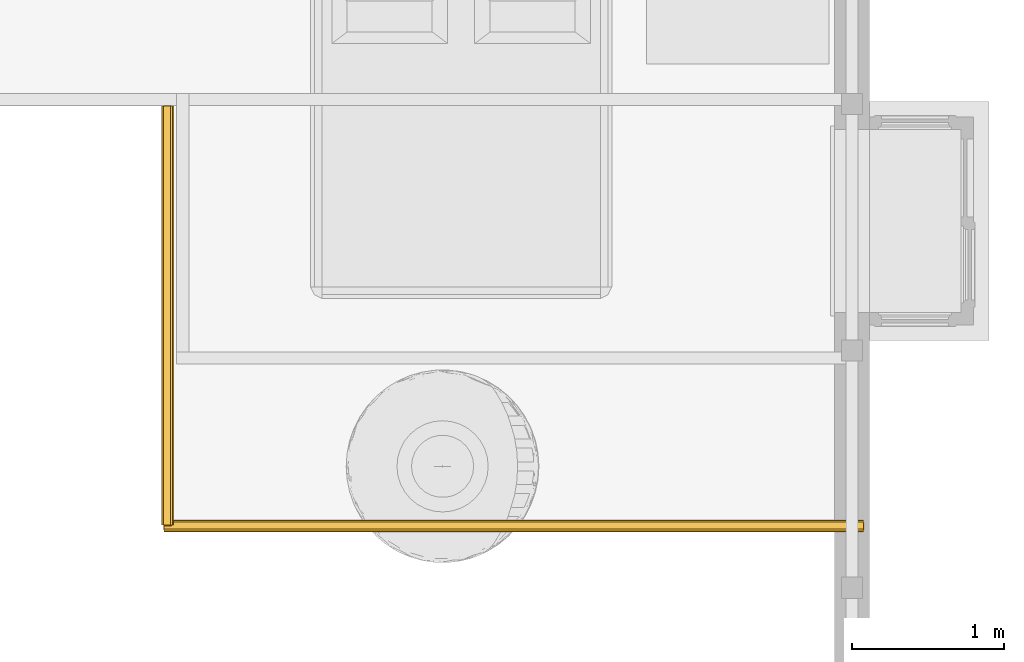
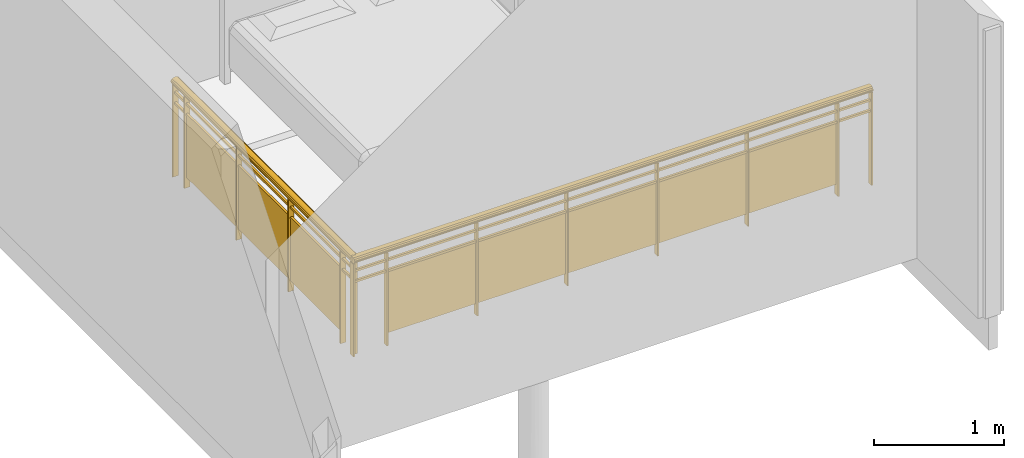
# One storey, part 4 of 5: 2 railings.
"""IFC2X3 building model written with IfcOpenShell, lengths in metres."""

from ifc_helpers import new_model, entity, si_unit, converted_unit, derived_unit, direction, frame, frame_2d, origin, origin_2d_with_axis, place, context, subcontext, project, spatial, polyline, rectangle, outline, extrude, material, material_list, type_object, element, save


model = new_model("IFC2X3")

# Units and contexts
model_context = context("Model", 3, precision=1e-05, world=origin(), true_north=direction((6.123233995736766e-17, 1.0)))
body_context = subcontext(model_context, "Body", "Model", "MODEL_VIEW")
ifc_project = project(units=[si_unit("LENGTHUNIT", "METRE"), si_unit("AREAUNIT", "SQUARE_METRE"), converted_unit("PLANEANGLEUNIT", "DEGREE", entity("IfcPlaneAngleMeasure", 0.017453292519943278), si_unit("PLANEANGLEUNIT", "RADIAN"), dimensions=[0, 0, 0, 0, 0, 0, 0]), derived_unit("THERMALTRANSMITTANCEUNIT", [(si_unit("MASSUNIT", "GRAM", prefix="KILO"), 1), (si_unit("THERMODYNAMICTEMPERATUREUNIT", "KELVIN"), -1), (si_unit("TIMEUNIT", "SECOND"), -3)])], contexts=[model_context])

# Site, building, storey
site_placement = place(None, origin())
site = spatial("IfcSite", under=ifc_project, at=site_placement, Name="Default", CompositionType="ELEMENT")
building_placement = place(site_placement, origin())
building = spatial("IfcBuilding", under=site, at=building_placement, CompositionType="ELEMENT")
storey_placement = place(building_placement, frame((0.0, 0.0, 3.0999999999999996)))
storey = spatial("IfcBuildingStorey", under=building, at=storey_placement, Name="1 - First Floor", CompositionType="ELEMENT", Elevation=3.0999999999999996)

# Railings
ifc_material_1 = material(Name="Metal - Stainless Steel,Polished")
ifc_material_2 = material(Name="Glass")
ifc_material_3 = material(Name="<Unnamed>")
ifc_material_list = material_list([ifc_material_1, ifc_material_2, ifc_material_3])
railing_type = type_object("IfcRailingType", Name="Railing:Glass Panel - Bottom Fill", PredefinedType="NOTDEFINED")
railing_1_placement = place(storey_placement, origin())
element("IfcRailing", 1, at=railing_1_placement, inside=storey, type_object=railing_type, material=ifc_material_list, Name="Railing:Glass Panel - Bottom Fill", ObjectType="Railing:Glass Panel - Bottom Fill", PredefinedType="NOTDEFINED", context=body_context, shape_type="SweptSolid", body=[
    extrude(rectangle(XDim=0.01199999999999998, YDim=0.05, at=frame_2d((-2.706168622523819e-16, -3.2959746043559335e-17), x_axis=(1.0, 0.0))), frame((3.244135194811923, -0.20443731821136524, 0.0)), (0.0, 0.0, 1.0), 0.8699999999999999),
    extrude(rectangle(XDim=0.7999999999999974, YDim=0.00499999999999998, at=frame_2d((2.7755575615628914e-16, 0.0), x_axis=(1.0, 0.0))), frame((2.8441351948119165, -0.20021250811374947, 0.1)), (0.0, 0.0, 1.0), 0.5799999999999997),
    extrude(rectangle(XDim=0.01199999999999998, YDim=0.05, at=frame_2d((2.706168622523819e-16, 0.0), x_axis=(1.0, 0.0))), frame((2.444135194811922, -0.20443731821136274, 0.0)), (0.0, 0.0, 1.0), 0.8699999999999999),
    extrude(rectangle(XDim=0.7999999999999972, YDim=0.00499999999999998, at=frame_2d((-1.3877787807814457e-16, 0.0), x_axis=(1.0, 0.0))), frame((2.0441351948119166, -0.20021250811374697, 0.1)), (0.0, 0.0, 1.0), 0.5799999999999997),
    extrude(rectangle(XDim=0.01199999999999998, YDim=0.05, at=frame_2d((1.3530843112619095e-16, 0.0), x_axis=(1.0, 0.0))), frame((1.644135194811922, -0.20443731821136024, 0.0)), (0.0, 0.0, 1.0), 0.8699999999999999),
    extrude(rectangle(XDim=0.7999999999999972, YDim=0.00499999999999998, at=frame_2d((-1.3877787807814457e-16, 0.0), x_axis=(1.0, 0.0))), frame((1.2441351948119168, -0.20021250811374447, 0.1)), (0.0, 0.0, 1.0), 0.5799999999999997),
    extrude(rectangle(XDim=0.01199999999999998, YDim=0.05, at=frame_2d((0.0, -3.2959746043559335e-17), x_axis=(1.0, 0.0))), frame((0.8441351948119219, -0.20443731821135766, 0.0)), (0.0, 0.0, 1.0), 0.8699999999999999),
    extrude(rectangle(XDim=0.7999999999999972, YDim=0.00499999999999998, at=frame_2d((-5.551115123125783e-17, 0.0), x_axis=(1.0, 0.0))), frame((0.4441351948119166, -0.20021250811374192, 0.1)), (0.0, 0.0, 1.0), 0.5799999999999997),
    extrude(rectangle(XDim=0.01200000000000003, YDim=0.05, at=origin_2d_with_axis()), frame((0.0441351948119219, -0.2044373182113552, 0.0)), (0.0, 0.0, 1.0), 0.8699999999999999),
    extrude(rectangle(XDim=0.799999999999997, YDim=0.00499999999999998, at=origin_2d_with_axis()), frame((-0.3558648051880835, -0.20021250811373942, 0.1)), (0.0, 0.0, 1.0), 0.5799999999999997),
    extrude(rectangle(XDim=0.01199999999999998, YDim=0.05, at=frame_2d((0.0, -3.2959746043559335e-17), x_axis=(1.0, 0.0))), frame((-0.7558648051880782, -0.20443731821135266, 0.0)), (0.0, 0.0, 1.0), 0.8699999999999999),
    extrude(rectangle(XDim=0.01199999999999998, YDim=0.05, at=frame_2d((-2.706168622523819e-16, 0.0), x_axis=(1.0, 0.0))), frame((3.542135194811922, -0.2044373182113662, 0.0)), (0.0, 0.0, 1.0), 0.8699999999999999),
    extrude(rectangle(XDim=0.01199999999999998, YDim=0.05, at=frame_2d((0.0, -3.2959746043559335e-17), x_axis=(1.0, 0.0))), frame((-1.0538648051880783, -0.20443731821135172, 0.0)), (0.0, 0.0, 1.0), 0.8699999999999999),
    extrude(rectangle(XDim=4.6000000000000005, YDim=0.019999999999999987, at=origin_2d_with_axis()), frame((1.2441351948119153, -0.20443731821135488, 0.7800000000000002)), (0.0, 0.0, 1.0), 0.019999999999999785),
    extrude(rectangle(XDim=4.6000000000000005, YDim=0.019999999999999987, at=origin_2d_with_axis()), frame((1.2441351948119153, -0.20443731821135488, 0.6800000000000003)), (0.0, 0.0, 1.0), 0.019999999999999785),
    extrude(outline(polyline([(-0.010906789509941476, -0.03848430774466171), (0.0017758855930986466, -0.0384843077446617), (0.01415149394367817, -0.03183002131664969), (0.024080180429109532, -0.019672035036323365), (0.029845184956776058, -0.004112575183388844), (0.03044968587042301, 0.012157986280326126), (0.02578915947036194, 0.026326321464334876), (0.016669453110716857, 0.035942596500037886), (0.010906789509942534, 0.03848430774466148), (-0.0017758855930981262, 0.03848430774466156), (-0.014151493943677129, 0.0318300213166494), (-0.024080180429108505, 0.019672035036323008), (-0.029845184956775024, 0.004112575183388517), (-0.030449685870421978, -0.012157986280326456), (-0.0257891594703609, -0.02632632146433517), (-0.01666945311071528, -0.035942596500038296), (-0.010906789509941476, -0.03848430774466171)])), frame((-1.055864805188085, -0.2038280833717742, 0.8999999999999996), z_axis=(1.0, 0.0, 0.0), x_axis=(0.0, -0.2726697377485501, 0.9621076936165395)), (0.0, 0.0, 1.0), 4.6000000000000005),
])
railing_2_placement = place(storey_placement, origin())
element("IfcRailing", 2, at=railing_2_placement, inside=storey, type_object=railing_type, material=ifc_material_list, Name="Railing:Glass Panel - Bottom Fill", ObjectType="Railing:Glass Panel - Bottom Fill", PredefinedType="NOTDEFINED", context=body_context, shape_type="SweptSolid", body=[
    extrude(rectangle(XDim=0.05, YDim=0.012000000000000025, at=frame_2d((0.0, -1.3010426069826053e-18), x_axis=(1.0, 0.0))), frame((-1.0319240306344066, -0.019849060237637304, 0.0), z_axis=(0.0, 0.0, 1.0), x_axis=(-1.0, 0.0, 0.0)), (0.0, 0.0, 1.0), 0.8699999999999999),
    extrude(rectangle(XDim=0.004999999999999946, YDim=0.7999999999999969, at=frame_2d((-6.765421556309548e-17, 0.0), x_axis=(1.0, 0.0))), frame((-1.0361488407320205, 0.3801509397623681, 0.1), z_axis=(0.0, 0.0, 1.0), x_axis=(-1.0, 0.0, 0.0)), (0.0, 0.0, 1.0), 0.5799999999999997),
    extrude(rectangle(XDim=0.05, YDim=0.012000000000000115, at=origin_2d_with_axis()), frame((-1.031924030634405, 0.7801509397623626, 0.0), z_axis=(0.0, 0.0, 1.0), x_axis=(-1.0, 0.0, 0.0)), (0.0, 0.0, 1.0), 0.8699999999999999),
    extrude(rectangle(XDim=0.004999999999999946, YDim=0.799999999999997, at=frame_2d((-6.765421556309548e-17, 0.0), x_axis=(1.0, 0.0))), frame((-1.0361488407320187, 1.180150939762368, 0.1), z_axis=(0.0, 0.0, 1.0), x_axis=(-1.0, 0.0, 0.0)), (0.0, 0.0, 1.0), 0.5799999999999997),
    extrude(rectangle(XDim=0.05, YDim=0.01199999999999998, at=origin_2d_with_axis()), frame((-1.0319240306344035, 1.5801509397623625, 0.0), z_axis=(0.0, 0.0, 1.0), x_axis=(-1.0, 0.0, 0.0)), (0.0, 0.0, 1.0), 0.8699999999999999),
    extrude(rectangle(XDim=0.004999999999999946, YDim=0.7999999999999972, at=frame_2d((-6.765421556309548e-17, 1.3877787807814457e-16), x_axis=(1.0, 0.0))), frame((-1.0361488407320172, 1.980150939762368, 0.1), z_axis=(0.0, 0.0, 1.0), x_axis=(-1.0, 0.0, 0.0)), (0.0, 0.0, 1.0), 0.5799999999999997),
    extrude(rectangle(XDim=0.05, YDim=0.01199999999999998, at=frame_2d((0.0, 2.706168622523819e-16), x_axis=(1.0, 0.0))), frame((-1.0319240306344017, 2.380150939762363, 0.0), z_axis=(0.0, 0.0, 1.0), x_axis=(-1.0, 0.0, 0.0)), (0.0, 0.0, 1.0), 0.8699999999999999),
    extrude(rectangle(XDim=0.05, YDim=0.012000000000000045, at=frame_2d((0.0, -1.691355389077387e-17), x_axis=(1.0, 0.0))), frame((-1.031924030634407, -0.19594820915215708, 0.0), z_axis=(0.0, 0.0, 1.0), x_axis=(-1.0, 0.0, 0.0)), (0.0, 0.0, 1.0), 0.8699999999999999),
    extrude(rectangle(XDim=0.05, YDim=0.01199999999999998, at=frame_2d((0.0, -2.706168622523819e-16), x_axis=(1.0, 0.0))), frame((-1.0319240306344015, 2.5562500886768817, 0.0), z_axis=(0.0, 0.0, 1.0), x_axis=(-1.0, 0.0, 0.0)), (0.0, 0.0, 1.0), 0.8699999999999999),
    extrude(rectangle(XDim=2.756198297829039, YDim=0.020000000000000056, at=frame_2d((0.0, 6.765421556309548e-17), x_axis=(1.0, 0.0))), frame((-1.0319240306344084, 1.1801509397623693, 0.7800000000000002), z_axis=(0.0, 0.0, 1.0), x_axis=(0.0, -1.0, 0.0)), (0.0, 0.0, 1.0), 0.019999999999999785),
    extrude(rectangle(XDim=2.756198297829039, YDim=0.020000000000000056, at=frame_2d((0.0, 6.765421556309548e-17), x_axis=(1.0, 0.0))), frame((-1.0319240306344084, 1.1801509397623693, 0.6800000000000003), z_axis=(0.0, 0.0, 1.0), x_axis=(0.0, -1.0, 0.0)), (0.0, 0.0, 1.0), 0.019999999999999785),
    extrude(outline(polyline([(-0.010906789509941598, -0.03848430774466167), (0.0017758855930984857, -0.03848430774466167), (0.014151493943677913, -0.03183002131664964), (0.02408018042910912, -0.019672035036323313), (0.0298451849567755, -0.004112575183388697), (0.030449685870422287, 0.012157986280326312), (0.025789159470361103, 0.026326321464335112), (0.016669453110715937, 0.0359425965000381), (0.010906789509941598, 0.03848430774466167), (-0.0017758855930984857, 0.03848430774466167), (-0.014151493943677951, 0.03183002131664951), (-0.024080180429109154, 0.019672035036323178), (-0.029845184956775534, 0.004112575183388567), (-0.030449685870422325, -0.012157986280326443), (-0.025789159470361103, -0.026326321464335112), (-0.016669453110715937, -0.0359425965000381), (-0.010906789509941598, -0.03848430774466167)])), frame((-1.0325332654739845, -0.19794820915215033, 0.9), z_axis=(0.0, 1.0, 0.0), x_axis=(-0.27266973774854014, 0.0, -0.9621076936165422)), (0.0, 0.0, 1.0), 2.756198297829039),
])

save(model, "model.ifc")
